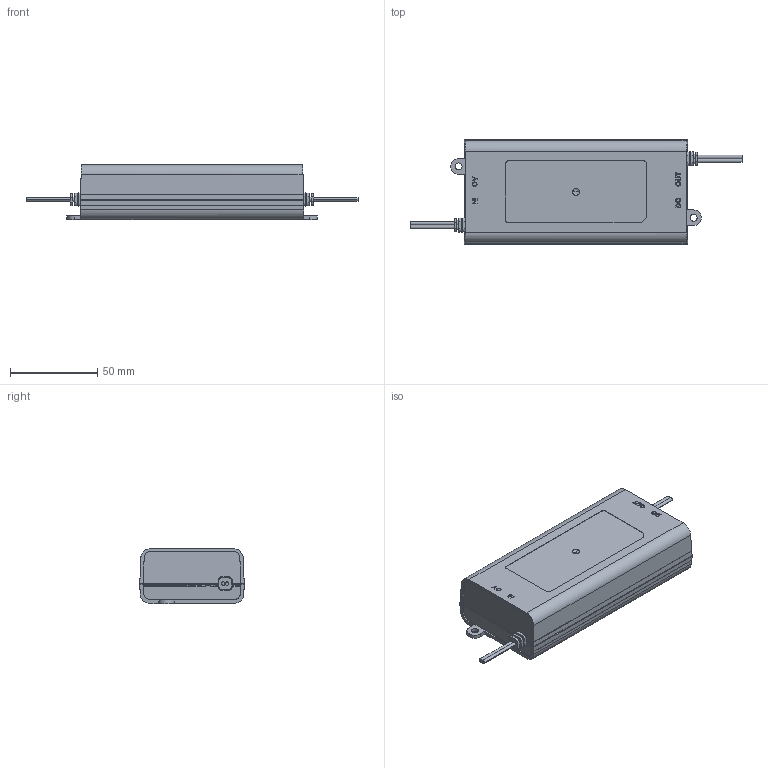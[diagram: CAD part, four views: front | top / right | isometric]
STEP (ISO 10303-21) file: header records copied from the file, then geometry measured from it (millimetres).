
FILE_DESCRIPTION(('Creo Elements/Direct Modeling STEP Export'),'2;1');
FILE_NAME('PCD-40.stp','2017-07-17T15:23:44',(''),(''),'PTC Creo Elements/Direct Modeling STEP processor for AP214 (Solid Model)','PTC Creo Elements/Direct Modeling 19.0 09-May-2014 (C) Parametric Technology GmbH','');
FILE_SCHEMA(('AUTOMOTIVE_DESIGN { 1 0 10303 214 1 1 1 1 }'));
Length unit declared in the file: millimetre
Products named in the file (3): P2_7.PRT; PP_ASM_4.ASM; PCD-40
Assembly tree (2 placements, depth 3):
  PCD-40
    PP_ASM_4.ASM
      P2_7.PRT
Bounding box: 190.01 x 59.98 x 31.5 mm (x, y, z)
Surface area: 54948.4 mm2 (no closed solid volume)
Topology: 0 solids, 1 shells, 969 faces, 2812 edges, 1841 vertices
Faces by surface type: plane 719, cylinder 188, cone 24, torus 20, bspline 14, sphere 4
Entity records: 32326 total; most frequent: CARTESIAN_POINT 7145, ORIENTED_EDGE 5620, DIRECTION 4640, EDGE_CURVE 2807, VECTOR 2168, LINE 2168, VERTEX_POINT 1841, AXIS2_PLACEMENT_3D 1236
